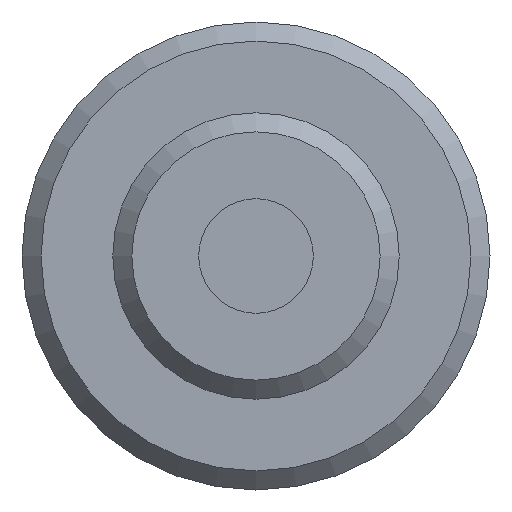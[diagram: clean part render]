
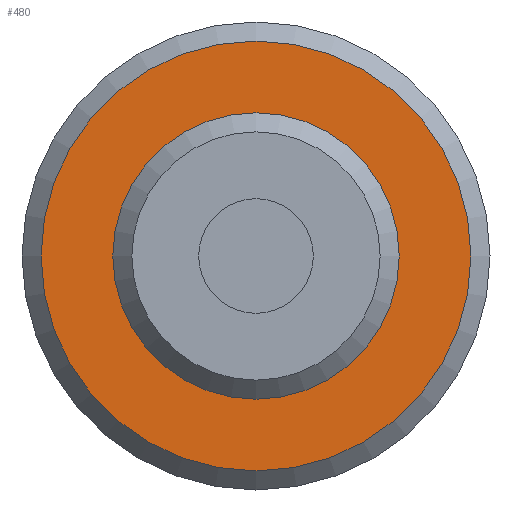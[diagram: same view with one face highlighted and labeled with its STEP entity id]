
A CAD part, front view. The second image highlights one B-rep face of the part: STEP entity #480.
In plain terms, the highlighted planar face has unit normal (0, -1, 0).
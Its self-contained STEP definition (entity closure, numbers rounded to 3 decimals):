
#35=FACE_BOUND('',#137,.T.);
#64=PLANE('',#556);
#92=FACE_OUTER_BOUND('',#136,.T.);
#136=EDGE_LOOP('',(#380));
#137=EDGE_LOOP('',(#381));
#228=CIRCLE('',#555,7.5);
#229=CIRCLE('',#557,11.25);
#265=VERTEX_POINT('',#833);
#266=VERTEX_POINT('',#837);
#307=EDGE_CURVE('',#265,#265,#228,.T.);
#309=EDGE_CURVE('',#266,#266,#229,.T.);
#380=ORIENTED_EDGE('',*,*,#309,.F.);
#381=ORIENTED_EDGE('',*,*,#307,.T.);
#480=ADVANCED_FACE('',(#92,#35),#64,.T.);
#555=AXIS2_PLACEMENT_3D('',#834,#660,#661);
#556=AXIS2_PLACEMENT_3D('',#836,#663,#664);
#557=AXIS2_PLACEMENT_3D('',#838,#665,#666);
#660=DIRECTION('center_axis',(0.,1.,0.));
#661=DIRECTION('ref_axis',(1.,0.,0.));
#663=DIRECTION('center_axis',(0.,-1.,0.));
#664=DIRECTION('ref_axis',(0.,0.,-1.));
#665=DIRECTION('center_axis',(0.,1.,0.));
#666=DIRECTION('ref_axis',(1.,0.,0.));
#833=CARTESIAN_POINT('',(0.,20.,-7.5));
#834=CARTESIAN_POINT('Origin',(0.,20.,0.));
#836=CARTESIAN_POINT('Origin',(0.,20.,11.25));
#837=CARTESIAN_POINT('',(0.,20.,-11.25));
#838=CARTESIAN_POINT('Origin',(0.,20.,0.));
